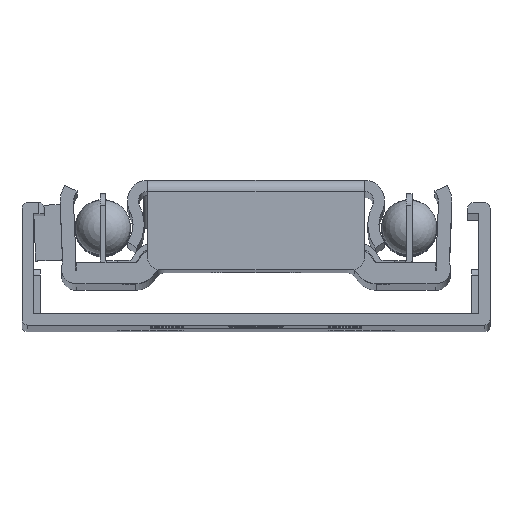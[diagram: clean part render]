
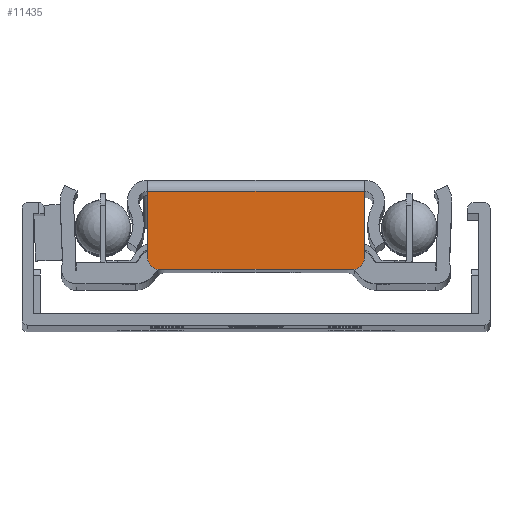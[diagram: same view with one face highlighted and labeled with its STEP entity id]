
A CAD part, top view. The second image highlights one B-rep face of the part: STEP entity #11435.
In plain terms, the highlighted planar face has unit normal (0, 0, 1).
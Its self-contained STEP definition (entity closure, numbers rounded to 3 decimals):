
#544=PLANE('',#12568);
#1112=FACE_OUTER_BOUND('',#1805,.T.);
#1805=EDGE_LOOP('',(#10480,#10481,#10482,#10483,#10484,#10485));
#2928=LINE('',#19335,#4053);
#2929=LINE('',#19338,#4054);
#2930=LINE('',#19342,#4055);
#2931=LINE('',#19345,#4056);
#4053=VECTOR('',#15806,10.);
#4054=VECTOR('',#15809,10.);
#4055=VECTOR('',#15812,10.);
#4056=VECTOR('',#15815,10.);
#4582=CIRCLE('',#12569,1.);
#4583=CIRCLE('',#12570,1.);
#5663=VERTEX_POINT('',#19331);
#5664=VERTEX_POINT('',#19333);
#5665=VERTEX_POINT('',#19337);
#5666=VERTEX_POINT('',#19339);
#5667=VERTEX_POINT('',#19341);
#5668=VERTEX_POINT('',#19343);
#7293=EDGE_CURVE('',#5664,#5663,#2928,.T.);
#7294=EDGE_CURVE('',#5664,#5665,#2929,.T.);
#7295=EDGE_CURVE('',#5666,#5665,#4582,.T.);
#7296=EDGE_CURVE('',#5666,#5667,#2930,.T.);
#7297=EDGE_CURVE('',#5668,#5667,#4583,.T.);
#7298=EDGE_CURVE('',#5663,#5668,#2931,.T.);
#10480=ORIENTED_EDGE('',*,*,#7293,.F.);
#10481=ORIENTED_EDGE('',*,*,#7294,.T.);
#10482=ORIENTED_EDGE('',*,*,#7295,.F.);
#10483=ORIENTED_EDGE('',*,*,#7296,.T.);
#10484=ORIENTED_EDGE('',*,*,#7297,.F.);
#10485=ORIENTED_EDGE('',*,*,#7298,.F.);
#11435=ADVANCED_FACE('',(#1112),#544,.T.);
#12568=AXIS2_PLACEMENT_3D('',#19336,#15807,#15808);
#12569=AXIS2_PLACEMENT_3D('',#19340,#15810,#15811);
#12570=AXIS2_PLACEMENT_3D('',#19344,#15813,#15814);
#15806=DIRECTION('',(-1.,0.,0.));
#15807=DIRECTION('center_axis',(0.,0.,1.));
#15808=DIRECTION('ref_axis',(1.,0.,0.));
#15809=DIRECTION('',(0.,1.,0.));
#15810=DIRECTION('center_axis',(0.,0.,-1.));
#15811=DIRECTION('ref_axis',(0.707,0.707,0.));
#15812=DIRECTION('',(-1.,0.,0.));
#15813=DIRECTION('center_axis',(0.,0.,-1.));
#15814=DIRECTION('ref_axis',(-0.707,0.707,0.));
#15815=DIRECTION('',(0.,1.,0.));
#19331=CARTESIAN_POINT('',(4.892,-4.95,319.5));
#19333=CARTESIAN_POINT('',(24.354,-4.95,319.5));
#19335=CARTESIAN_POINT('',(19.501,-4.95,319.5));
#19336=CARTESIAN_POINT('Origin',(24.354,-5.95,319.5));
#19337=CARTESIAN_POINT('',(24.354,1.05,319.5));
#19338=CARTESIAN_POINT('',(24.354,-5.95,319.5));
#19339=CARTESIAN_POINT('',(23.354,2.05,319.5));
#19340=CARTESIAN_POINT('Origin',(23.354,1.05,319.5));
#19341=CARTESIAN_POINT('',(5.892,2.05,319.5));
#19342=CARTESIAN_POINT('',(24.354,2.05,319.5));
#19343=CARTESIAN_POINT('',(4.892,1.05,319.5));
#19344=CARTESIAN_POINT('Origin',(5.892,1.05,319.5));
#19345=CARTESIAN_POINT('',(4.892,-5.95,319.5));
